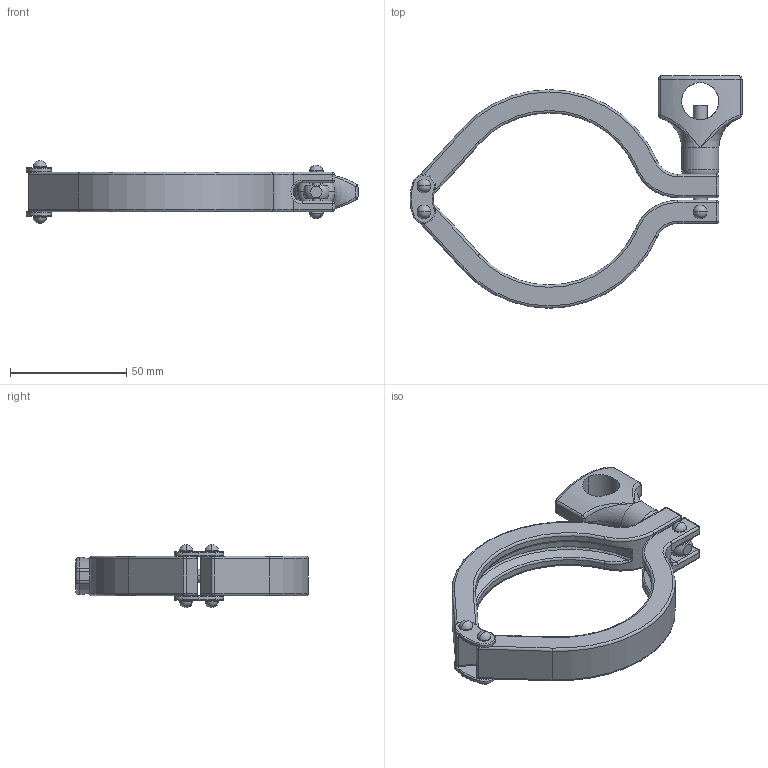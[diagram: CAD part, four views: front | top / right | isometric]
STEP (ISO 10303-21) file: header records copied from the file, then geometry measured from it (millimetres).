
FILE_DESCRIPTION (( 'STEP AP203' ), '1' );
FILE_NAME ('13MHHMD3.0-H.STEP', '2022-06-07T02:53:22', ( '' ), ( '' ), 'SwSTEP 2.0', 'SolidWorks 2014', '' );
FILE_SCHEMA (( 'CONFIG_CONTROL_DESIGN' ));
Length unit declared in the file: millimetre
Products named in the file (10): 13MHHD3.0-2; 13MHHD-2; 13MHHM-PART-4; 13MHHD-PARTS-2; 13MHHMD3.0-H; 13MHHD3.0-1; 13MHHD-PARTS-3; 13MHHD-PARTS-1; Wing Nut 14; 13MHHD-PARTS
Assembly tree (12 placements, depth 2):
  13MHHMD3.0-H
    13MHHD3.0-1
    13MHHD-2  x2
    13MHHD-PARTS  x2
    13MHHD-PARTS-1  x2
    13MHHD-PARTS-2
    13MHHD-PARTS-3
    13MHHM-PART-4
    13MHHD3.0-2
    Wing Nut 14
Bounding box: 142.99 x 100.14 x 27 mm (x, y, z)
Volume: 56255 mm3; surface area: 27501.6 mm2
Topology: 12 solids, 12 shells, 390 faces, 896 edges, 504 vertices
Faces by surface type: cylinder 138, torus 95, plane 57, bspline 50, sphere 46, cone 4
Entity records: 12839 total; most frequent: CARTESIAN_POINT 4131, DIRECTION 1737, ORIENTED_EDGE 1520, AXIS2_PLACEMENT_3D 770, EDGE_CURVE 760, CIRCLE 458, VERTEX_POINT 436, EDGE_LOOP 370
